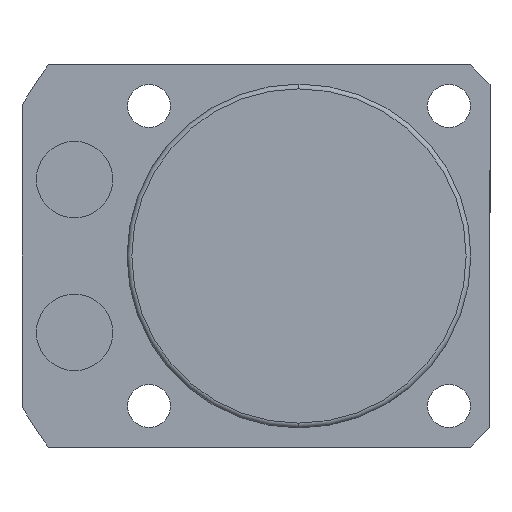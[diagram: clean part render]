
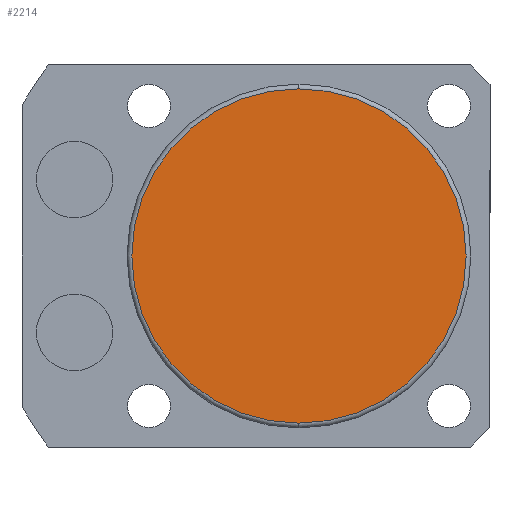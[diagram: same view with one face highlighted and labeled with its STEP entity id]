
A CAD part, front view. The second image highlights one B-rep face of the part: STEP entity #2214.
In plain terms, the highlighted planar face has unit normal (0, -1, 0).
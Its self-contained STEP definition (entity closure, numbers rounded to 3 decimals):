
#37 = ORIENTED_EDGE ( 'NONE', *, *, #1717, .T. ) ;
#87 = DIRECTION ( 'NONE',  ( 0., 0., -1. ) ) ;
#129 = FACE_OUTER_BOUND ( 'NONE', #526, .T. ) ;
#292 = EDGE_CURVE ( 'NONE', #305, #895, #1293, .T. ) ;
#305 = VERTEX_POINT ( 'NONE', #1878 ) ;
#362 = AXIS2_PLACEMENT_3D ( 'NONE', #1384, #464, #1593 ) ;
#464 = DIRECTION ( 'NONE',  ( 0., -1., 0. ) ) ;
#487 = ORIENTED_EDGE ( 'NONE', *, *, #292, .T. ) ;
#526 = EDGE_LOOP ( 'NONE', ( #487, #37 ) ) ;
#537 = DIRECTION ( 'NONE',  ( 0., 0., -1. ) ) ;
#553 = CARTESIAN_POINT ( 'NONE',  ( 0., -105.5, 0. ) ) ;
#894 = AXIS2_PLACEMENT_3D ( 'NONE', #960, #1147, #87 ) ;
#895 = VERTEX_POINT ( 'NONE', #1115 ) ;
#960 = CARTESIAN_POINT ( 'NONE',  ( 0., -105.5, 0. ) ) ;
#1025 = CIRCLE ( 'NONE', #362, 17.5 ) ;
#1115 = CARTESIAN_POINT ( 'NONE',  ( 0., -105.5, 17.5 ) ) ;
#1147 = DIRECTION ( 'NONE',  ( 0., -1., 0. ) ) ;
#1293 = CIRCLE ( 'NONE', #1491, 17.5 ) ;
#1384 = CARTESIAN_POINT ( 'NONE',  ( 0., -105.5, 0. ) ) ;
#1475 = DIRECTION ( 'NONE',  ( 0., -1., 0. ) ) ;
#1491 = AXIS2_PLACEMENT_3D ( 'NONE', #553, #1475, #537 ) ;
#1593 = DIRECTION ( 'NONE',  ( 0., 0., -1. ) ) ;
#1717 = EDGE_CURVE ( 'NONE', #895, #305, #1025, .T. ) ;
#1878 = CARTESIAN_POINT ( 'NONE',  ( 0., -105.5, -17.5 ) ) ;
#2119 = PLANE ( 'NONE',  #894 ) ;
#2214 = ADVANCED_FACE ( 'NONE', ( #129 ), #2119, .T. ) ;
